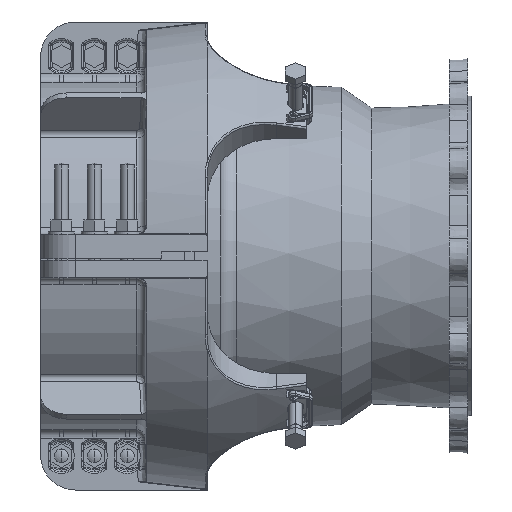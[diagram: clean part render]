
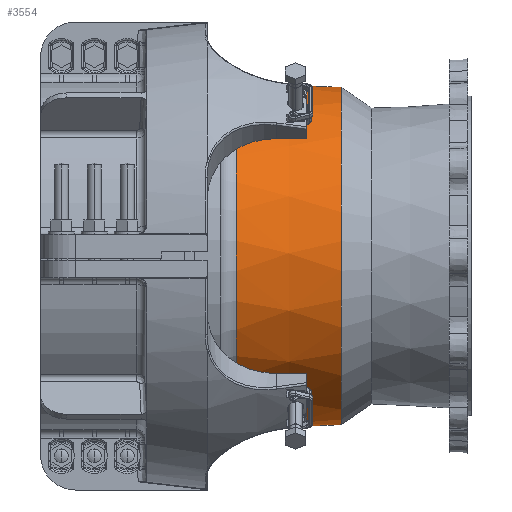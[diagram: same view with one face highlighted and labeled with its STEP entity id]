
A CAD part, left-side view. The second image highlights one B-rep face of the part: STEP entity #3554.
In plain terms, the highlighted conical face has half-angle 3 degrees and reference radius 198.491 mm.
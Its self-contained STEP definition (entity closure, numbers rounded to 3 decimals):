
#841=CARTESIAN_POINT('',(0.,147.331,0.));
#842=DIRECTION('',(0.,1.,0.));
#843=DIRECTION('',(0.707,0.,-0.707));
#844=AXIS2_PLACEMENT_3D('',#841,#842,#843);
#846=DIRECTION('',(-0.051,-0.999,0.014));
#847=VECTOR('',#846,121.013);
#848=CARTESIAN_POINT('',(194.786,268.178,-52.193));
#849=LINE('',#848,#847);
#850=DIRECTION('',(0.037,0.999,-0.037));
#851=VECTOR('',#850,121.013);
#852=CARTESIAN_POINT('',(138.115,147.331,-138.115));
#853=LINE('',#852,#851);
#869=CARTESIAN_POINT('',(0.,268.178,0.));
#870=DIRECTION('',(0.,-1.,0.));
#871=DIRECTION('',(0.966,0.,-0.259));
#872=AXIS2_PLACEMENT_3D('',#869,#870,#871);
#2326=CARTESIAN_POINT('',(194.786,268.178,-52.193));
#2327=CARTESIAN_POINT('',(188.669,147.331,-50.554));
#2328=VERTEX_POINT('',#2326);
#2329=VERTEX_POINT('',#2327);
#2330=CARTESIAN_POINT('',(138.115,147.331,-138.115));
#2331=CARTESIAN_POINT('',(142.594,268.178,-142.594));
#2332=VERTEX_POINT('',#2330);
#2333=VERTEX_POINT('',#2331);
#3540=CARTESIAN_POINT('',(0.,207.754,0.));
#3541=DIRECTION('',(0.,1.,0.));
#3542=DIRECTION('',(0.966,0.,-0.259));
#3543=AXIS2_PLACEMENT_3D('',#3540,#3541,#3542);
#3544=CONICAL_SURFACE('',#3543,198.491,3.);
#3546=ORIENTED_EDGE('',*,*,#3545,.T.);
#3547=ORIENTED_EDGE('',*,*,#3535,.F.);
#3549=ORIENTED_EDGE('',*,*,#3548,.T.);
#3551=ORIENTED_EDGE('',*,*,#3550,.F.);
#3552=EDGE_LOOP('',(#3546,#3547,#3549,#3551));
#3553=FACE_OUTER_BOUND('',#3552,.F.);
#3554=ADVANCED_FACE('',(#3553),#3544,.T.);
#845=CIRCLE('',#844,195.324);
#873=CIRCLE('',#872,201.658);
#3535=EDGE_CURVE('',#2332,#2329,#845,.T.);
#3545=EDGE_CURVE('',#2328,#2329,#849,.T.);
#3548=EDGE_CURVE('',#2332,#2333,#853,.T.);
#3550=EDGE_CURVE('',#2328,#2333,#873,.T.);
